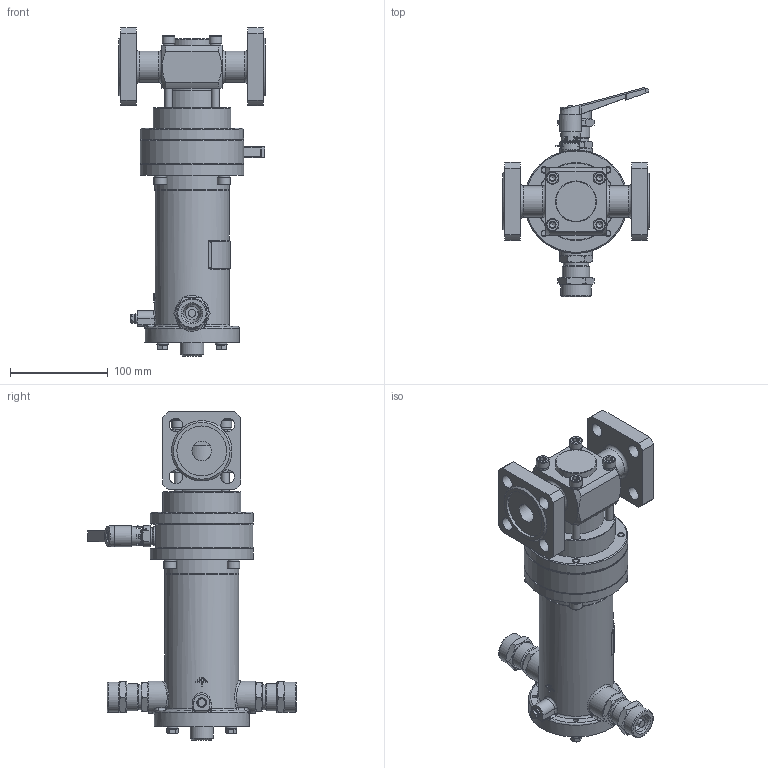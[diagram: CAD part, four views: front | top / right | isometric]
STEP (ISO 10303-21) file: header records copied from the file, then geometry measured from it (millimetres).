
FILE_DESCRIPTION(('STEP AP203'), '1');
FILE_NAME('捇迕-珅 DN20PN25-捔', '', ('UNSPECIFIED'), ('UNSPECIFIED'), 'C3D Converter', 'C3D Toolkit', '');
FILE_SCHEMA(('CONFIG_CONTROL_DESIGN'));
Length unit declared in the file: millimetre
Bounding box: 150 x 214 x 336.5 mm (x, y, z)
Volume: 1264589.9 mm3; surface area: 323862.9 mm2
Topology: 6 solids, 21 shells, 2721 faces, 7310 edges, 4767 vertices
Faces by surface type: plane 1229, cylinder 1112, cone 196, extrusion 108, torus 38, bspline 36, sphere 2
Full cylindrical faces by diameter (mm): 1 x2, 2.459 x1, 3 x1, 3.1 x1, 3.5 x2, 4 x1, 4.134 x1, 4.3 x1, 4.5 x1, 4.917 x6, 5 x2, 6 x16, 6.3 x1, 6.5 x4, 6.647 x4, 7 x1, 8 x13, 8.5 x4, 9 x9, 10 x2, 11 x1, 12 x6, 12.5 x1, 13 x10, 13.8 x1, 14 x9, 15 x1, 16 x1, 17 x1, 17.8 x1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
Entity records: 124214 total; most frequent: CARTESIAN_POINT 34195, DIRECTION 14226, ORIENTED_EDGE 13856, EDGE_CURVE 6928, AXIS2_PLACEMENT_3D 5270, VERTEX_POINT 5180, VECTOR 3686, LINE 3578
